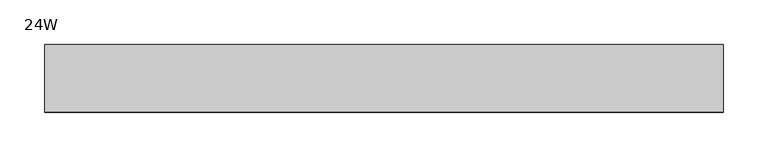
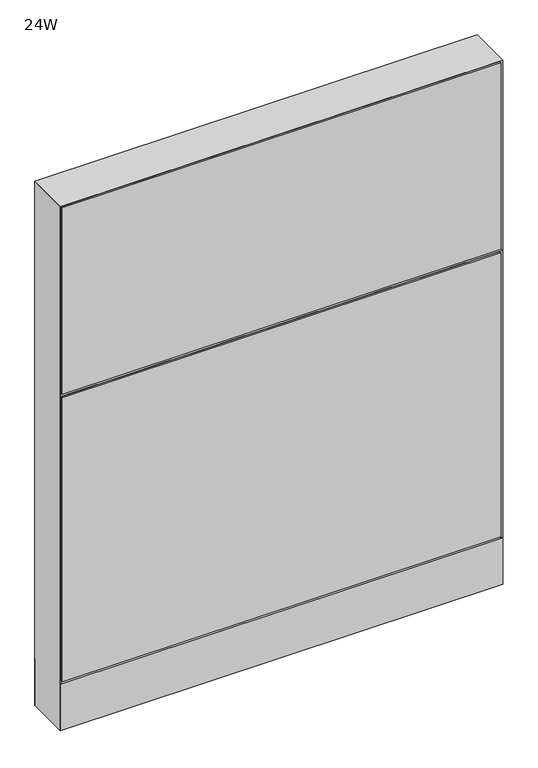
"""IFC4 building model written with IfcOpenShell, lengths in millimetres: furniture geometry, Steelcase - Montage - Frame - 38H - Enhanced Standard - Base Cavity : 24W."""

import ifcopenshell
import ifcopenshell.guid

model = None  # the IFC model being written
_history = None  # IfcOwnerHistory: only IFC2X3 demands one
_inside = {}  # id of a spatial element -> (the spatial element, [elements in it])
_under = {}  # id of a project, library or spatial element -> (it, [spatial elements below it])
_declared = {}  # id of a project -> (the project, [libraries it declares])
_typed = {}  # id of a type object -> (the type object, [elements of that type])
_made_of = {}  # id of a material, layer set ... -> (it, [elements and type objects made of it])


def new_model(schema):
    """Start an empty IFC model of exactly this schema.

    Asked for "IFC4X3", IfcOpenShell would pick the latest addendum, in which some entities
    have other attributes; the version numbers below select the first issue.
    IFC2X3 requires an IfcOwnerHistory on every rooted entity: one is made here for all.
    """
    global model, _history
    if schema == "IFC4X3":
        model = ifcopenshell.file(schema_version=(4, 3, 0, 0))
    else:
        model = ifcopenshell.file(schema=schema)
    _inside.clear()
    _under.clear()
    _declared.clear()
    _typed.clear()
    _made_of.clear()
    _history = None
    if model.schema == "IFC2X3":
        org = make("IfcOrganization", Name="unknown")
        user = make(
            "IfcPersonAndOrganization",
            ThePerson=make("IfcPerson", FamilyName="unknown"),
            TheOrganization=org,
        )
        app = make(
            "IfcApplication",
            ApplicationDeveloper=org,
            Version="unknown",
            ApplicationFullName="unknown",
            ApplicationIdentifier="unknown",
        )
        _history = make(
            "IfcOwnerHistory",
            OwningUser=user,
            OwningApplication=app,
            ChangeAction="ADDED",
            CreationDate=0,
        )
    return model


def make(cls, **values):
    """One entity of the class cls with the attributes given. An attribute that is None is left unset."""
    return model.create_entity(
        cls, **{name: value for name, value in values.items() if value is not None}
    )


def rooted(cls, **values):
    """An entity with a GlobalId (a new one), such as an element, a storey or a relation."""
    return make(cls, GlobalId=ifcopenshell.guid.new(), OwnerHistory=_history, **values)


def si_unit(unit_type, name, prefix=None):
    """IfcSIUnit, for example si_unit("LENGTHUNIT", "METRE", prefix="MILLI")."""
    return make("IfcSIUnit", UnitType=unit_type, Prefix=prefix, Name=name)


def assignment(units):
    """IfcUnitAssignment: the units of a project."""
    return None if units is None else make("IfcUnitAssignment", Units=units)


def point(xyz):
    """IfcCartesianPoint."""
    return None if xyz is None else make("IfcCartesianPoint", Coordinates=xyz)


def direction(xyz):
    """IfcDirection."""
    return None if xyz is None else make("IfcDirection", DirectionRatios=xyz)


def frame(location, z_axis=None, x_axis=None):
    """IfcAxis2Placement3D, a coordinate frame: its origin and axes. An axis left out is left unset."""
    return make(
        "IfcAxis2Placement3D",
        Location=point(location),
        Axis=direction(z_axis),
        RefDirection=direction(x_axis),
    )


def frame_2d(location, x_axis=None):
    """IfcAxis2Placement2D, a coordinate frame in the plane: its origin and x axis."""
    return make(
        "IfcAxis2Placement2D", Location=point(location), RefDirection=direction(x_axis)
    )


def origin():
    """The frame at (0, 0, 0) with its axes left unset."""
    return frame((0.0, 0.0, 0.0))


def origin_with_axes():
    """The frame at (0, 0, 0) with the z axis (0, 0, 1) and the x axis (1, 0, 0) written out."""
    return frame((0.0, 0.0, 0.0), z_axis=(0.0, 0.0, 1.0), x_axis=(1.0, 0.0, 0.0))


def place(relative_to, where):
    """IfcLocalPlacement: puts the frame where relative to a parent placement (None: the world)."""
    return make(
        "IfcLocalPlacement", PlacementRelTo=relative_to, RelativePlacement=where
    )


def context(
    kind, dimensions, precision=None, world=None, true_north=None, identifier=None
):
    """IfcGeometricRepresentationContext, for example the 3D "Model" context."""
    return make(
        "IfcGeometricRepresentationContext",
        ContextIdentifier=identifier,
        ContextType=kind,
        CoordinateSpaceDimension=dimensions,
        Precision=precision,
        WorldCoordinateSystem=world,
        TrueNorth=true_north,
    )


def project(units=None, contexts=None):
    """IfcProject with its units and contexts."""
    return rooted(
        "IfcProject",
        Name="project",
        RepresentationContexts=contexts,
        UnitsInContext=assignment(units),
    )


def spatial(cls, under=None, at=None, **own):
    """A site, building, storey or space (cls), placed at a placement, below another one or the project."""
    s = rooted(cls, ObjectPlacement=at, **own)
    if under is not None:
        _under.setdefault(under.id(), (under, []))[1].append(s)
    return s


def polyline(points):
    """IfcPolyline through the points."""
    return make("IfcPolyline", Points=[point(p) for p in points])


def circle_curve(where, radius):
    """IfcCircle in the frame where."""
    return make("IfcCircle", Position=where, Radius=radius)


def trimmed(basis, trim1, trim2, sense, master):
    """IfcTrimmedCurve: the piece of a basis curve between two trims."""
    return make(
        "IfcTrimmedCurve",
        BasisCurve=basis,
        Trim1=trim1,
        Trim2=trim2,
        SenseAgreement=sense,
        MasterRepresentation=master,
    )


def segment(curve, same_sense, transition):
    """IfcCompositeCurveSegment."""
    return make(
        "IfcCompositeCurveSegment",
        Transition=transition,
        SameSense=same_sense,
        ParentCurve=curve,
    )


def composite_curve(segments, self_intersect=None):
    """IfcCompositeCurve: segments joined end to end."""
    return make("IfcCompositeCurve", Segments=segments, SelfIntersect=self_intersect)


def outline(outer, holes=None, kind="AREA"):
    """IfcArbitraryClosedProfileDef: a profile drawn as a closed curve; with holes, ...WithVoids."""
    if holes is None:
        return make("IfcArbitraryClosedProfileDef", ProfileType=kind, OuterCurve=outer)
    return make(
        "IfcArbitraryProfileDefWithVoids",
        ProfileType=kind,
        OuterCurve=outer,
        InnerCurves=holes,
    )


def extrude(swept, where, along, depth):
    """IfcExtrudedAreaSolid: the profile swept, set in the frame where, extruded along a direction by depth."""
    return make(
        "IfcExtrudedAreaSolid",
        SweptArea=swept,
        Position=where,
        ExtrudedDirection=direction(along),
        Depth=depth,
    )


def faces_of(points, faces, orient=None, outer=None):
    """IfcFace entities. A face is a list of loops; a loop is a list of indices into points, from 0.

    orient and outer hold one flag for each loop. By default every Orientation is true, the
    first loop of a face is its IfcFaceOuterBound and the others are IfcFaceBound.
    """
    made = []
    for i, loops in enumerate(faces):
        bounds = []
        for j, loop in enumerate(loops):
            is_outer = j == 0 if outer is None else outer[i][j]
            bounds.append(
                make(
                    "IfcFaceOuterBound" if is_outer else "IfcFaceBound",
                    Bound=make("IfcPolyLoop", Polygon=[points[k] for k in loop]),
                    Orientation=True if orient is None else orient[i][j],
                )
            )
        made.append(make("IfcFace", Bounds=bounds))
    return made


def faceted_brep(points, faces, orient=None, outer=None, voids=None):
    """IfcFacetedBrep: a solid bounded by flat faces; with voids (closed shells), ...WithVoids."""
    shared = [point(p) for p in points]
    hull = make("IfcClosedShell", CfsFaces=faces_of(shared, faces, orient, outer))
    if voids is None:
        return make("IfcFacetedBrep", Outer=hull)
    return make(
        "IfcFacetedBrepWithVoids",
        Outer=hull,
        Voids=[
            make(cls, CfsFaces=faces_of(shared, fs, o, b)) for cls, fs, o, b in voids
        ],
    )


def shape(context_of_items, identifier, shape_type, items):
    """IfcShapeRepresentation: the items that make up one representation, for example the "Body"."""
    return make(
        "IfcShapeRepresentation",
        ContextOfItems=context_of_items,
        RepresentationIdentifier=identifier,
        RepresentationType=shape_type,
        Items=items,
    )


def source(mapping_origin, context_of_items, identifier, shape_type, items):
    """IfcRepresentationMap: a shape defined once, which mapped items show again and again."""
    return make(
        "IfcRepresentationMap",
        MappingOrigin=mapping_origin,
        MappedRepresentation=shape(context_of_items, identifier, shape_type, items),
    )


def transform(
    local_origin,
    x_axis=None,
    y_axis=None,
    z_axis=None,
    scale=None,
    scale2=None,
    scale3=None,
    uniform=True,
):
    """IfcCartesianTransformationOperator3D, or its non-uniform kind. x_axis, y_axis, z_axis: its Axis1, 2, 3."""
    if uniform:
        return make(
            "IfcCartesianTransformationOperator3D",
            Axis1=direction(x_axis),
            Axis2=direction(y_axis),
            LocalOrigin=point(local_origin),
            Scale=scale,
            Axis3=direction(z_axis),
        )
    return make(
        "IfcCartesianTransformationOperator3DnonUniform",
        Axis1=direction(x_axis),
        Axis2=direction(y_axis),
        LocalOrigin=point(local_origin),
        Scale=scale,
        Axis3=direction(z_axis),
        Scale2=scale2,
        Scale3=scale3,
    )


def mapped(mapping_source, mapping_target):
    """IfcMappedItem: shows the shape of a source again, moved by a transform."""
    return make(
        "IfcMappedItem", MappingSource=mapping_source, MappingTarget=mapping_target
    )


def made_of(thing, what):
    """Note that an element or type object is made of a material, layer set ...; save() writes the relation."""
    if what is not None:
        _made_of.setdefault(what.id(), (what, []))[1].append(thing)
    return thing


def element(
    cls,
    number,
    at=None,
    inside=None,
    cuts=None,
    type_object=None,
    material=None,
    context=None,
    identifier="Body",
    shape_type=None,
    held_by="IfcProductDefinitionShape",
    body=None,
    shapes=None,
    **own,
):
    """One element of the class cls, such as IfcWall. Its Tag is "e" and its number.

    at: its placement. inside: the storey or other place that contains it. cuts: it is an
    opening in that element (IfcRelVoidsElement). A single representation is given by context,
    identifier, shape_type and body (its items); several are given by shapes. held_by: the class
    of the entity that holds the representations. save() writes the other relations.
    """
    e = rooted(cls, Tag="e%d" % number, ObjectPlacement=at, **own)
    if body is not None:
        shapes = [shape(context, identifier, shape_type, body)]
    if shapes is not None:
        e.Representation = make(held_by, Representations=shapes)
    if inside is not None:
        _inside.setdefault(inside.id(), (inside, []))[1].append(e)
    if cuts is not None:
        rooted(
            "IfcRelVoidsElement", RelatingBuildingElement=cuts, RelatedOpeningElement=e
        )
    if type_object is not None:
        _typed.setdefault(type_object.id(), (type_object, []))[1].append(e)
    return made_of(e, material)


def aggregate(whole, parts):
    """IfcRelAggregates: a whole, such as a stair, and the parts it consists of."""
    return rooted("IfcRelAggregates", RelatingObject=whole, RelatedObjects=parts)


def save(model, path):
    """Write the relations noted so far, then the file.

    IfcRelAggregates (storeys below a building ...), IfcRelContainedInSpatialStructure (elements
    in a storey), IfcRelDefinesByType, IfcRelAssociatesMaterial and IfcRelDeclares: one each for
    every whole, place, type object, material and project.
    """
    for whole, parts in _under.values():
        aggregate(whole, parts)
    for where, things in _inside.values():
        rooted(
            "IfcRelContainedInSpatialStructure",
            RelatedElements=things,
            RelatingStructure=where,
        )
    for kind, things in _typed.values():
        rooted("IfcRelDefinesByType", RelatedObjects=things, RelatingType=kind)
    for what, things in _made_of.values():
        rooted("IfcRelAssociatesMaterial", RelatedObjects=things, RelatingMaterial=what)
    for by, libraries in _declared.values():
        rooted("IfcRelDeclares", RelatingContext=by, RelatedDefinitions=libraries)
    model.write(path)


def furniture_24w_426d5895(model_context):
    return source(origin(), model_context, "Body", "SolidModel", [
        extrude(outline(polyline([(3.175, 31.7500194), (3.175, 38.1000194), (758.825, 38.1000194), (758.825, 31.7500194), (3.175, 31.7500194)])), frame((0.0, 0.0, 92.075), z_axis=(0.0, 0.0, 1.0), x_axis=(1.0, 0.0, 0.0)), (0.0, 0.0, 1.0), 863.6),
        faceted_brep([(0.0, -38.1026297, 612.775), (762.0, -38.1026297, 612.775), (755.6500047, -31.7526299, 619.1249997), (6.3499917, -31.7526299, 619.1249997), (6.3499917, -31.7526299, 606.4250003), (755.6500047, -31.7526299, 606.4250003)], [[[0, 1, 2, 3]], [[1, 0, 4, 5]], [[3, 2, 5, 4]], [[0, 3, 4]], [[2, 1, 5]]]),
        extrude(outline(polyline([(3.175, -31.7500194), (758.825, -31.7500194), (758.825, -38.1000194), (3.175, -38.1000194), (3.175, -31.7500194)])), frame((0.0, 0.0, 92.075), z_axis=(0.0, 0.0, 1.0), x_axis=(1.0, 0.0, 0.0)), (0.0, 0.0, 1.0), 517.525),
        extrude(outline(polyline([(3.175, -31.7500194), (758.825, -31.7500194), (758.825, -38.1000194), (3.175, -38.1000194), (3.175, -31.7500194)])), frame((0.0, 0.0, 615.95), z_axis=(0.0, 0.0, 1.0), x_axis=(1.0, 0.0, 0.0)), (0.0, 0.0, 1.0), 339.725),
        extrude(outline(polyline([(6.350003, -31.7499985), (755.649997, -31.7499985), (762.0, -38.1000015), (0.0, -38.1000015), (6.350003, -31.7499985)])), frame((0.0, 0.0, 4.064), z_axis=(0.0, 0.0, 1.0), x_axis=(1.0, 0.0, 0.0)), (0.0, 0.0, 1.0), 84.835997),
        extrude(outline(polyline([(6.3500002, 31.7500017), (0.0, 38.1000015), (762.0, 38.1000015), (755.6500002, 31.7500017), (6.3500002, 31.7500017)])), frame((0.0, 0.0, 4.064), z_axis=(0.0, 0.0, 1.0), x_axis=(1.0, 0.0, 0.0)), (0.0, 0.0, 1.0), 84.835997),
        faceted_brep([(762.0, -38.1000015, 958.85), (0.0, -38.1000015, 958.85), (6.3500484, -31.749953, 952.4999516), (755.6499516, -31.749953, 952.4999516), (6.3500484, 31.749953, 952.4999516), (755.6499516, 31.749953, 952.4999516), (0.0, 38.1000015, 958.85), (762.0, 38.1000015, 958.85)], [[[0, 1, 2, 3]], [[3, 2, 4, 5]], [[6, 7, 5, 4]], [[1, 0, 7, 6]], [[2, 1, 6, 4]], [[0, 3, 5, 7]]]),
        extrude(outline(composite_curve([segment(trimmed(circle_curve(frame_2d((44.45, 0.0)), 15.24), [point((29.21, 0.0))], [point((59.69, 0.0))], False, "CARTESIAN"), True, "CONTINUOUS"), segment(trimmed(circle_curve(frame_2d((44.45, 0.0)), 15.24), [point((59.69, 0.0))], [point((29.21, 0.0))], False, "CARTESIAN"), True, "CONTINUOUS")], self_intersect=False)), origin_with_axes(), (0.0, 0.0, 1.0), 4.064),
        extrude(outline(composite_curve([segment(trimmed(circle_curve(frame_2d((717.55, 0.0)), 15.24), [point((702.31, 0.0))], [point((732.79, 0.0))], False, "CARTESIAN"), True, "CONTINUOUS"), segment(trimmed(circle_curve(frame_2d((717.55, 0.0)), 15.24), [point((732.79, 0.0))], [point((702.31, 0.0))], False, "CARTESIAN"), True, "CONTINUOUS")], self_intersect=False)), origin_with_axes(), (0.0, 0.0, 1.0), 4.064),
        faceted_brep([(762.0, -38.1000106, 4.064), (762.0, 38.1000015, 4.064), (762.0, 38.1000015, 958.85), (762.0, -38.1000106, 958.8499637), (0.0, 38.1000015, 4.064), (0.0, -38.1000015, 4.064), (0.0, -38.1000015, 958.85), (0.0, 38.1000015, 958.85), (755.6499879, 31.7500017, 606.425), (6.35, 31.7500017, 606.425), (6.3499998, 31.7500017, 619.125), (755.6499879, 31.7500017, 619.125), (6.35, -31.7499985, 619.125), (755.6499879, -31.7499985, 619.125), (6.350003, -31.7499985, 606.425), (755.6499879, -31.7499985, 606.425), (6.35, 31.7500015, 4.064), (6.35, -31.7500015, 4.064), (755.6499879, 31.7499894, 4.064), (755.6499879, -31.7499985, 4.064), (6.35, 31.7500015, 952.5), (6.35, -31.7500015, 952.5), (755.6499879, -31.7499985, 952.4999516), (755.6499879, 31.7499896, 952.4999516)], [[[0, 1, 2, 3]], [[4, 5, 6, 7]], [[8, 9, 10, 11]], [[11, 10, 12, 13]], [[13, 12, 14, 15]], [[9, 8, 15, 14]], [[16, 17, 5, 4]], [[18, 1, 0, 19]], [[16, 4, 7, 20, 10, 9]], [[5, 17, 14, 12, 21, 6]], [[12, 10, 20, 21]], [[17, 16, 9, 14]], [[11, 13, 22, 23]], [[18, 19, 15, 8]], [[19, 0, 3, 22, 13, 15]], [[1, 18, 8, 11, 23, 2]], [[7, 6, 21, 20]], [[3, 2, 23, 22]]]),
    ])


if __name__ == "__main__":
    model = new_model("IFC4")
    model_context = context("Model", 3, world=origin())
    ifc_project = project(units=[si_unit("LENGTHUNIT", "METRE", prefix="MILLI")], contexts=[model_context])
    site = spatial("IfcSite", under=ifc_project)
    building = spatial("IfcBuilding", under=site)
    placement = place(None, origin())
    furniture_24w_shape = furniture_24w_426d5895(model_context)
    element("IfcFurniture", 1, ObjectType="Steelcase - Montage - Frame - 38H - Enhanced Standard - Base Cavity : 24W", at=placement, inside=building, context=model_context, shape_type="MappedRepresentation", body=[
        mapped(furniture_24w_shape, transform((0.0, 0.0, 0.0), x_axis=(1.0, 0.0, 0.0), y_axis=(0.0, 1.0, 0.0), z_axis=(0.0, 0.0, 1.0))),
    ])
    save(model, "model.ifc")
